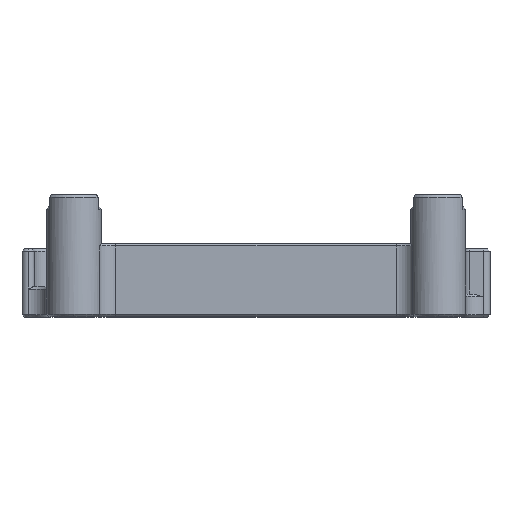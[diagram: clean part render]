
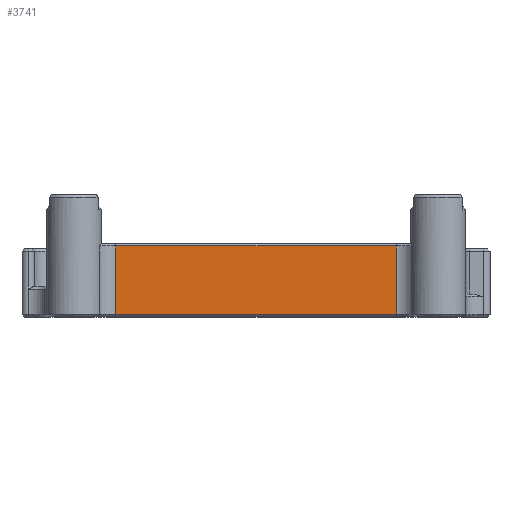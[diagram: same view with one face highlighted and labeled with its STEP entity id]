
A CAD part, top view. The second image highlights one B-rep face of the part: STEP entity #3741.
In plain terms, the highlighted planar face has unit normal (0, 0, 1).
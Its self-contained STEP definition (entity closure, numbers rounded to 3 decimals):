
#734 = DIRECTION ( 'NONE',  ( -1., 0., 0. ) ) ;
#792 = CARTESIAN_POINT ( 'NONE',  ( 11.463, 5.8, 11. ) ) ;
#1117 = ORIENTED_EDGE ( 'NONE', *, *, #5221, .T. ) ;
#1157 = ORIENTED_EDGE ( 'NONE', *, *, #1498, .T. ) ;
#1498 = EDGE_CURVE ( 'NONE', #2173, #5932, #2192, .T. ) ;
#1544 = VERTEX_POINT ( 'NONE', #5947 ) ;
#1850 = CARTESIAN_POINT ( 'NONE',  ( -11.463, 0.2, 11. ) ) ;
#2000 = VECTOR ( 'NONE', #3836, 1000. ) ;
#2173 = VERTEX_POINT ( 'NONE', #6870 ) ;
#2192 = LINE ( 'NONE', #5515, #5045 ) ;
#2442 = CARTESIAN_POINT ( 'NONE',  ( -11.463, 0., 11. ) ) ;
#2944 = ORIENTED_EDGE ( 'NONE', *, *, #5835, .T. ) ;
#2963 = DIRECTION ( 'NONE',  ( 1., 0., 0. ) ) ;
#3004 = EDGE_LOOP ( 'NONE', ( #3857, #1117, #1157, #2944 ) ) ;
#3432 = DIRECTION ( 'NONE',  ( 0., 0., -1. ) ) ;
#3507 = LINE ( 'NONE', #2442, #5795 ) ;
#3533 = VECTOR ( 'NONE', #2963, 1000. ) ;
#3741 = ADVANCED_FACE ( 'NONE', ( #5504 ), #5074, .F. ) ;
#3761 = LINE ( 'NONE', #6022, #2000 ) ;
#3836 = DIRECTION ( 'NONE',  ( -1., 0., 0. ) ) ;
#3857 = ORIENTED_EDGE ( 'NONE', *, *, #4023, .T. ) ;
#4023 = EDGE_CURVE ( 'NONE', #1544, #5906, #3507, .T. ) ;
#4070 = AXIS2_PLACEMENT_3D ( 'NONE', #5614, #3432, #734 ) ;
#4710 = CARTESIAN_POINT ( 'NONE',  ( -17.15, 0.2, 11. ) ) ;
#5045 = VECTOR ( 'NONE', #6539, 1000. ) ;
#5074 = PLANE ( 'NONE',  #4070 ) ;
#5221 = EDGE_CURVE ( 'NONE', #5906, #2173, #5714, .T. ) ;
#5504 = FACE_OUTER_BOUND ( 'NONE', #3004, .T. ) ;
#5515 = CARTESIAN_POINT ( 'NONE',  ( 11.463, 6., 11. ) ) ;
#5614 = CARTESIAN_POINT ( 'NONE',  ( -17.15, 6., 11. ) ) ;
#5714 = LINE ( 'NONE', #4710, #3533 ) ;
#5795 = VECTOR ( 'NONE', #6301, 1000. ) ;
#5835 = EDGE_CURVE ( 'NONE', #5932, #1544, #3761, .T. ) ;
#5906 = VERTEX_POINT ( 'NONE', #1850 ) ;
#5932 = VERTEX_POINT ( 'NONE', #792 ) ;
#5947 = CARTESIAN_POINT ( 'NONE',  ( -11.463, 5.8, 11. ) ) ;
#6022 = CARTESIAN_POINT ( 'NONE',  ( -17.15, 5.8, 11. ) ) ;
#6301 = DIRECTION ( 'NONE',  ( 0., -1., 0. ) ) ;
#6539 = DIRECTION ( 'NONE',  ( 0., 1., 0. ) ) ;
#6870 = CARTESIAN_POINT ( 'NONE',  ( 11.463, 0.2, 11. ) ) ;
